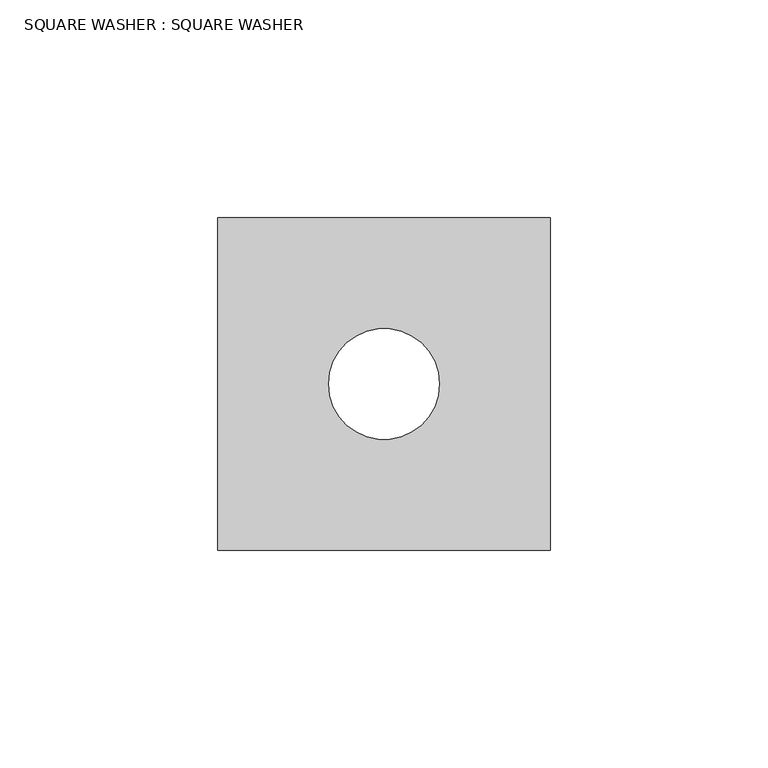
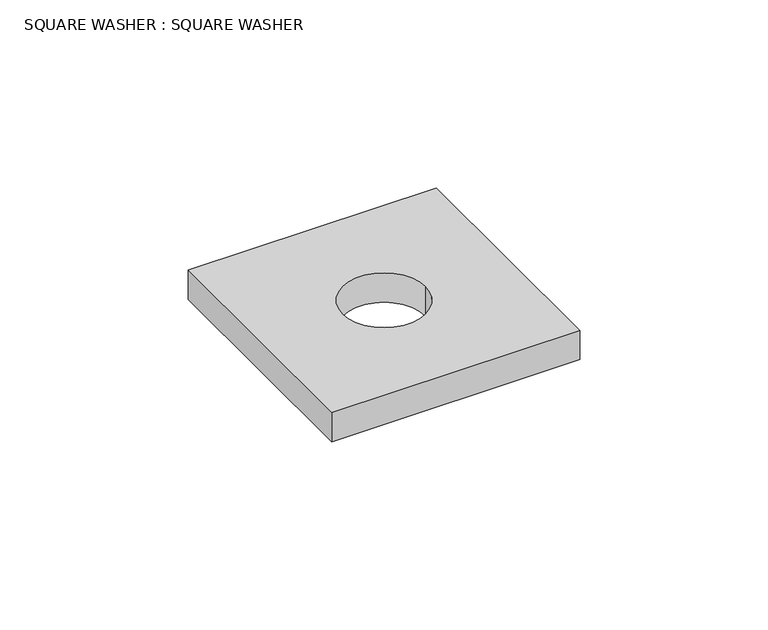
"""IFC4 building model written with IfcOpenShell, lengths in millimetres: proxy geometry, SQUARE WASHER : SQUARE WASHER."""

from ifc_helpers import new_model, si_unit, point, origin, origin_with_axes, origin_2d, place, context, project, spatial, polyline, circle_curve, trimmed, segment, composite_curve, outline, extrude, source, transform, mapped, element, save


def square_washer_square_washer_27417f0d(model_context):
    return source(origin(), model_context, "Body", "SweptSolid", [
        extrude(outline(polyline([(38.1, 38.1), (38.1, -38.1), (-38.1, -38.1), (-38.1, 38.1), (38.1, 38.1)]), holes=[composite_curve([segment(trimmed(circle_curve(origin_2d(), 12.7), [point((-12.7, 0.0))], [point((12.7, 0.0))], True, "CARTESIAN"), True, "CONTINUOUS"), segment(trimmed(circle_curve(origin_2d(), 12.7), [point((12.7, 0.0))], [point((-12.7, 0.0))], True, "CARTESIAN"), True, "CONTINUOUS")], self_intersect=False)]), origin_with_axes(), (0.0, 0.0, 1.0), 9.525),
    ])


if __name__ == "__main__":
    model = new_model("IFC4")
    model_context = context("Model", 3, world=origin())
    ifc_project = project(units=[si_unit("LENGTHUNIT", "METRE", prefix="MILLI")], contexts=[model_context])
    site = spatial("IfcSite", under=ifc_project)
    building = spatial("IfcBuilding", under=site)
    placement = place(None, origin())
    square_washer_square_washer_shape = square_washer_square_washer_27417f0d(model_context)
    element("IfcBuildingElementProxy", 1, Name="SQUARE WASHER : SQUARE WASHER", ObjectType="SQUARE WASHER : SQUARE WASHER", at=placement, inside=building, context=model_context, shape_type="MappedRepresentation", body=[
        mapped(square_washer_square_washer_shape, transform((0.0, 0.0, 0.0), x_axis=(1.0, 0.0, 0.0), y_axis=(0.0, 1.0, 0.0), z_axis=(0.0, 0.0, 1.0))),
    ])
    save(model, "model.ifc")
